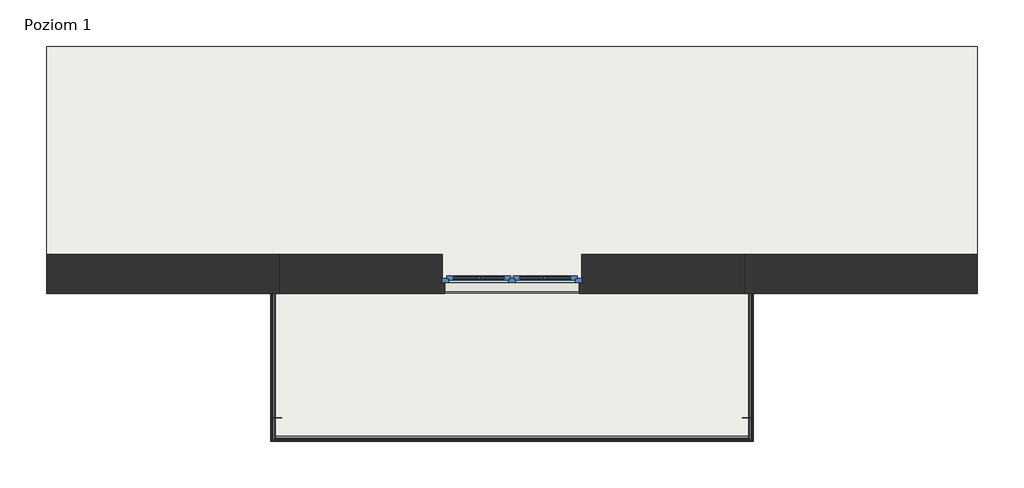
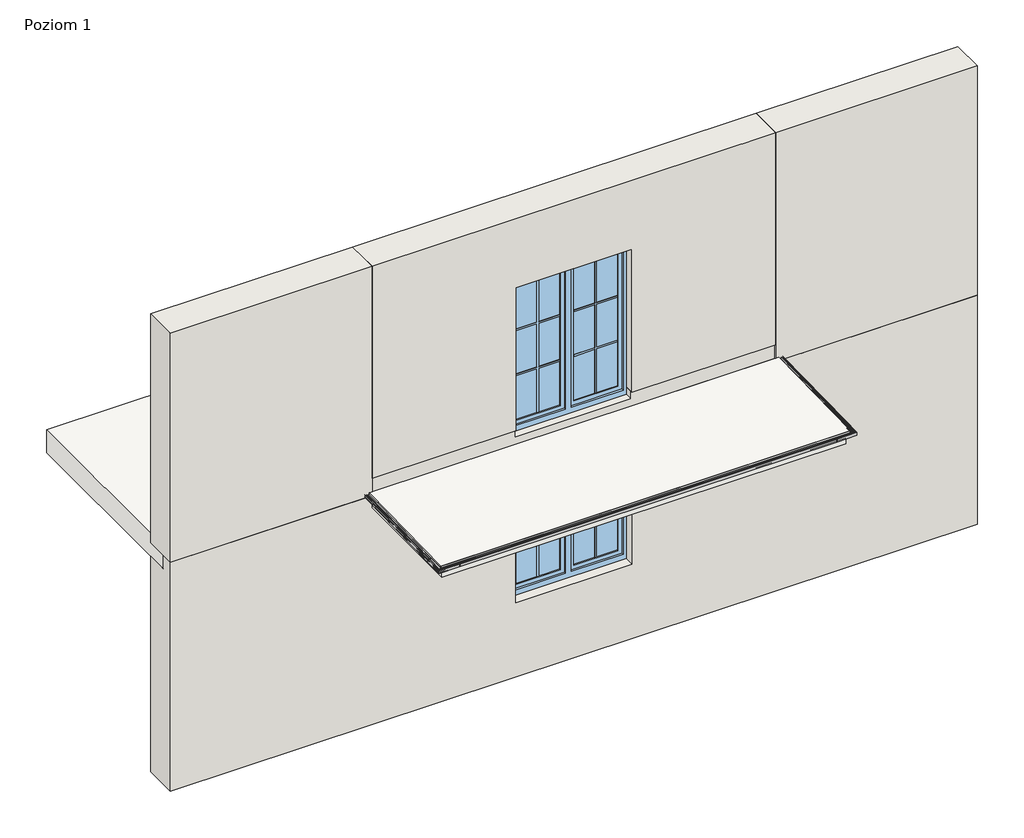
# One storey, part 1 of 4: 5 walls, 4 proxies, 3 slabs, 2 windows.
"""IFC4 building model written with IfcOpenShell, lengths in millimetres."""

from ifc_helpers import new_model, si_unit, frame, origin, place, context, project, spatial, polyline, outline, extrude, faceted_brep, transform, mapped, element, save
from components import w20_fb63c288, w20_69c16bf3, w20_ab5f31d4, w20z_20cc60ac, window_150x150_51b7f79a, window_150x200_12b14935

model = new_model("IFC4")

# Units and contexts
model_context = context("Model", 3, world=origin())
ifc_project = project(units=[si_unit("LENGTHUNIT", "METRE", prefix="MILLI")], contexts=[model_context])

# Site, building, storey
site = spatial("IfcSite", under=ifc_project)
building = spatial("IfcBuilding", under=site)
storey = spatial("IfcBuildingStorey", under=building, Name="Poziom 1", Elevation=0.0)

# Proxies
placement = place(None, origin())
w20_shape = w20_fb63c288(model_context)
element("IfcBuildingElementProxy", 1, Name="W20 Profil okapowy prosty : W20", ObjectType="W20 Profil okapowy prosty : W20", at=placement, inside=storey, context=model_context, shape_type="MappedRepresentation", body=[
    mapped(w20_shape, transform((-103829.8297699, 28196.8825447, -125.6962236), x_axis=(-1.0, 0.0, 0.0), y_axis=(0.0, -0.9997639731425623, -0.021725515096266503), z_axis=(0.0, -0.021725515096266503, 0.9997639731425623))),
])
w20_2_shape = w20_69c16bf3(model_context)
element("IfcBuildingElementProxy", 2, Name="W20 Profil okapowy prosty : W20", ObjectType="W20 Profil okapowy prosty : W20", at=placement, inside=storey, context=model_context, shape_type="MappedRepresentation", body=[
    mapped(w20_2_shape, transform((-103829.8297699, 28396.8353393, -121.3511206), x_axis=(0.0, 0.9997639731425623, 0.02172551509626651), y_axis=(-1.0, 0.0, 0.0), z_axis=(0.0, -0.021725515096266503, 0.9997639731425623))),
])
w20_3_shape = w20_ab5f31d4(model_context)
element("IfcBuildingElementProxy", 3, Name="W20 Profil okapowy prosty : W20", ObjectType="W20 Profil okapowy prosty : W20", at=placement, inside=storey, context=model_context, shape_type="MappedRepresentation", body=[
    mapped(w20_3_shape, transform((-108903.8297699, 28396.8353393, -121.3511206), x_axis=(0.0, 0.9997639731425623, 0.02172551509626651), y_axis=(-1.0, 0.0, 0.0), z_axis=(0.0, -0.021725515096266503, 0.9997639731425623))),
])
w20z_shape = w20z_20cc60ac(model_context)
element("IfcBuildingElementProxy", 4, Name="W20Z Profil okapowy prosty : W20z", ObjectType="W20Z Profil okapowy prosty : W20z", at=placement, inside=storey, context=model_context, shape_type="MappedRepresentation", body=[
    mapped(w20z_shape, transform((-108903.8267553, 28196.5028806, -125.7), x_axis=(1.0, 0.0, 0.0), y_axis=(0.0, 0.0, 1.0), z_axis=(0.0, -1.0, 0.0))),
])

# Slabs
element("IfcSlab", 5, ObjectType="Balkon - wykończenie - posadzka ceramiczna", at=placement, inside=storey, context=model_context, shape_type="SweptSolid", body=[
    extrude(outline(polyline([(28196.5349364, -125.7), (28196.5349364, -109.7), (29733.5349364, -76.3), (29733.5349364, -92.3), (28196.5349364, -125.7)])), frame((-108903.8297699, 0.0, 0.0), z_axis=(1.0, 0.0, 0.0), x_axis=(0.0, 1.0, 0.0)), (0.0, 0.0, 1.0), 5074.0),
])
element("IfcSlab", 6, ObjectType="Balkon - konstrukcja", at=placement, inside=storey, context=model_context, shape_type="Brep", body=[
    faceted_brep([(-108866.8297699, 28233.5349364, -285.0), (-108866.8297699, 29733.5349364, -285.0), (-108866.8297699, 29841.5349364, -285.0), (-103866.8297699, 29841.5349364, -285.0), (-103866.8297699, 29733.5349364, -285.0), (-103866.8297699, 28233.5349364, -285.0), (-108866.8297699, 28233.5349364, -125.0), (-108866.8297699, 29755.5349364, -94.0488806), (-108866.8297699, 29841.5349364, -92.3), (-108866.8297699, 29841.5349364, -125.0), (-103866.8297699, 29841.5349364, -92.3), (-103866.8297699, 29841.5349364, -125.0), (-103866.8297699, 28233.5349364, -125.0), (-103866.8297699, 29755.5349364, -94.0488806)], [[[0, 1, 2, 3, 4, 5]], [[2, 1, 0, 6, 7, 8, 9]], [[3, 2, 9, 8, 10, 11]], [[0, 5, 12, 6]], [[5, 4, 3, 11, 10, 13, 12]], [[12, 13, 10, 8, 7, 6]]]),
])
element("IfcSlab", 7, ObjectType="Strop", at=placement, inside=storey, context=model_context, shape_type="Brep", body=[
    faceted_brep([(-101366.8297699, 29888.5349364, -300.0), (-111366.8297699, 29888.5349364, -300.0), (-111366.8297699, 30153.5349364, -300.0), (-111366.8297699, 32388.5349364, -300.0), (-101366.8297699, 32388.5349364, -300.0), (-101366.8297699, 30153.5349364, -300.0), (-101366.8297699, 29888.5349364, 0.0), (-101366.8297699, 32388.5349364, 0.0), (-111366.8297699, 32388.5349364, 0.0), (-111366.8297699, 29888.5349364, 0.0), (-108866.8297699, 29888.5349364, 0.0), (-107116.8297699, 29888.5349364, 0.0), (-105616.8297699, 29888.5349364, 0.0), (-103866.8297699, 29888.5349364, 0.0), (-101366.8297699, 29888.5349364, -125.0), (-111366.8297699, 29888.5349364, -125.0)], [[[0, 1, 2, 3, 4, 5]], [[6, 7, 8, 9, 10, 11, 12, 13]], [[1, 0, 14, 6, 13, 12, 11, 10, 9, 15]], [[3, 2, 1, 15, 9, 8]], [[4, 3, 8, 7]], [[0, 5, 4, 7, 6, 14]]]),
])

# Walls
element("IfcWall", 8, ObjectType="Porotherm P+W 25 + o15 + t", at=placement, inside=storey, context=model_context, shape_type="Brep", body=[
    faceted_brep([(-111366.8297699, 29733.5349364, -3125.0), (-101366.8297699, 29733.5349364, -3125.0), (-101366.8297699, 29733.5349364, -125.0), (-103866.8297699, 29733.5349364, -125.0), (-103866.8297699, 29733.5349364, -285.0), (-108866.8297699, 29733.5349364, -285.0), (-108866.8297699, 29733.5349364, -125.0), (-111366.8297699, 29733.5349364, -125.0), (-105646.8297699, 29733.5349364, -680.0), (-105646.8297699, 29733.5349364, -2150.0), (-107086.8297699, 29733.5349364, -2150.0), (-107086.8297699, 29733.5349364, -680.0), (-101366.8297699, 30153.5349364, -3125.0), (-111366.8297699, 30153.5349364, -3125.0), (-111366.8297699, 30153.5349364, -300.0), (-101366.8297699, 30153.5349364, -300.0), (-105616.8297699, 30153.5349364, -2150.0), (-105616.8297699, 30153.5349364, -650.0), (-107116.8297699, 30153.5349364, -650.0), (-107116.8297699, 30153.5349364, -2150.0), (-101366.8297699, 29888.5349364, -300.0), (-101366.8297699, 29888.5349364, -125.0), (-103866.8297699, 29888.5349364, -125.0), (-108866.8297699, 29888.5349364, -125.0), (-111366.8297699, 29888.5349364, -125.0), (-108866.8297699, 29841.5349364, -125.0), (-103866.8297699, 29841.5349364, -125.0), (-111366.8297699, 29888.5349364, -300.0), (-105616.8297699, 29853.5349364, -650.0), (-105616.8297699, 29853.5349364, -2150.0), (-105646.8297699, 29853.5349364, -680.0), (-105646.8297699, 29853.5349364, -2150.0), (-103866.8297699, 29841.5349364, -285.0), (-108866.8297699, 29841.5349364, -285.0), (-107116.8297699, 29853.5349364, -650.0), (-107116.8297699, 29853.5349364, -2150.0), (-107086.8297699, 29853.5349364, -2150.0), (-107086.8297699, 29853.5349364, -680.0)], [[[0, 1, 2, 3, 4, 5, 6, 7], [8, 9, 10, 11]], [[12, 13, 14, 15], [16, 17, 18, 19]], [[1, 0, 13, 12]], [[2, 1, 12, 15, 20, 21]], [[2, 21, 22, 23, 24, 7, 6, 25, 26, 3]], [[0, 7, 24, 27, 14, 13]], [[28, 17, 16, 29]], [[8, 30, 31, 9]], [[27, 20, 15, 14]], [[20, 27, 24, 23, 22, 21]], [[32, 33, 5, 4]], [[5, 33, 25, 6]], [[33, 32, 26, 25]], [[32, 4, 3, 26]], [[17, 28, 34, 18]], [[29, 16, 19, 35, 36, 10, 9, 31]], [[34, 28, 29, 31, 30, 37, 36, 35]], [[34, 35, 19, 18]], [[30, 8, 11, 37]], [[10, 36, 37, 11]]]),
])
element("IfcWall", 9, ObjectType="Porotherm P+W 25 + o15 + t", at=placement, inside=storey, context=model_context, shape_type="Brep", body=[
    faceted_brep([(-111366.8297699, 29733.5349364, -125.0), (-108866.8297699, 29733.5349364, -125.0), (-108866.8297699, 29733.5349364, 100.0), (-108866.8297699, 29733.5349364, 2875.0), (-111366.8297699, 29733.5349364, 2875.0), (-111366.8297699, 30153.5349364, -125.0), (-111366.8297699, 30153.5349364, 2875.0), (-108866.8297699, 30153.5349364, 2875.0), (-108866.8297699, 30153.5349364, 100.0), (-108866.8297699, 30153.5349364, 0.0), (-108866.8297699, 30153.5349364, -125.0), (-111366.8297699, 29888.5349364, -125.0), (-108866.8297699, 29888.5349364, -125.0), (-108866.8297699, 29841.5349364, -125.0)], [[[0, 1, 2, 3, 4]], [[5, 6, 7, 8, 9, 10]], [[1, 0, 11, 5, 10, 12, 13]], [[4, 3, 7, 6]], [[0, 4, 6, 5, 11]], [[1, 13, 12, 10, 9, 8, 7, 3, 2]]]),
])
element("IfcWall", 10, ObjectType="Porotherm P+W 25 + o15 + t", at=placement, inside=storey, context=model_context, shape_type="Brep", body=[
    faceted_brep([(-103866.8297699, 29733.5349364, 2875.0), (-103866.8297699, 29733.5349364, 100.0), (-103866.8297699, 29733.5349364, -125.0), (-101366.8297699, 29733.5349364, -125.0), (-101366.8297699, 29733.5349364, 2875.0), (-103866.8297699, 30153.5349364, -125.0), (-103866.8297699, 30153.5349364, 0.0), (-103866.8297699, 30153.5349364, 100.0), (-103866.8297699, 30153.5349364, 2875.0), (-101366.8297699, 30153.5349364, 2875.0), (-101366.8297699, 30153.5349364, -125.0), (-103866.8297699, 29841.5349364, -125.0), (-103866.8297699, 29888.5349364, -125.0), (-101366.8297699, 29888.5349364, -125.0)], [[[0, 1, 2, 3, 4]], [[5, 6, 7, 8, 9, 10]], [[3, 2, 11, 12, 5, 10, 13]], [[4, 3, 13, 10, 9]], [[0, 4, 9, 8]], [[0, 8, 7, 6, 5, 12, 11, 2, 1]]]),
])
element("IfcWall", 11, ObjectType="Porotherm P+W 25 + o12 + pł ceramiczne", at=placement, inside=storey, context=model_context, shape_type="Brep", body=[
    faceted_brep([(-103866.8297699, 29755.5349364, 100.0), (-105646.8297699, 29755.5349364, 100.0), (-105646.8297699, 29755.5349364, 0.0), (-107086.8297699, 29755.5349364, 0.0), (-107086.8297699, 29755.5349364, 100.0), (-108866.8297699, 29755.5349364, 100.0), (-108866.8297699, 29755.5349364, -94.0488806), (-103866.8297699, 29755.5349364, -94.0488806), (-108866.8297699, 30153.5349364, 0.0), (-108866.8297699, 30153.5349364, 100.0), (-107116.8297699, 30153.5349364, 100.0), (-107116.8297699, 30153.5349364, 0.0), (-103866.8297699, 30153.5349364, 100.0), (-103866.8297699, 30153.5349364, 0.0), (-105616.8297699, 30153.5349364, 0.0), (-105616.8297699, 30153.5349364, 100.0), (-108866.8297699, 29888.5349364, -125.0), (-103866.8297699, 29888.5349364, -125.0), (-103866.8297699, 29841.5349364, -125.0), (-108866.8297699, 29841.5349364, -125.0), (-103866.8297699, 29841.5349364, -92.3), (-103866.8297699, 29888.5349364, 0.0), (-105616.8297699, 29853.5349364, 100.0), (-105646.8297699, 29853.5349364, 100.0), (-107086.8297699, 29853.5349364, 100.0), (-107116.8297699, 29853.5349364, 100.0), (-108866.8297699, 29888.5349364, 0.0), (-108866.8297699, 29841.5349364, -92.3), (-107116.8297699, 29888.5349364, 0.0), (-105616.8297699, 29888.5349364, 0.0), (-107116.8297699, 29853.5349364, 0.0), (-107086.8297699, 29853.5349364, 0.0), (-105646.8297699, 29853.5349364, 0.0), (-105616.8297699, 29853.5349364, 0.0)], [[[0, 1, 2, 3, 4, 5, 6, 7]], [[8, 9, 10, 11]], [[12, 13, 14, 15]], [[16, 17, 18, 19]], [[12, 0, 7, 20, 18, 17, 21, 13]], [[0, 12, 15, 22, 23, 1]], [[9, 5, 4, 24, 25, 10]], [[5, 9, 8, 26, 16, 19, 27, 6]], [[8, 11, 28, 26]], [[13, 21, 29, 14]], [[17, 16, 26, 28, 29, 21]], [[20, 27, 19, 18]], [[27, 20, 7, 6]], [[30, 31, 3, 2, 32, 33, 29, 28]], [[31, 30, 25, 24]], [[33, 32, 23, 22]], [[33, 22, 15, 14, 29]], [[25, 30, 28, 11, 10]], [[32, 2, 1, 23]], [[3, 31, 24, 4]]]),
])
element("IfcWall", 12, ObjectType="Porotherm P+W 25 + o15 + t", at=placement, inside=storey, context=model_context, shape_type="Brep", body=[
    faceted_brep([(-103866.8297699, 29733.5349364, 100.0), (-103866.8297699, 29733.5349364, 2875.0), (-108866.8297699, 29733.5349364, 2875.0), (-108866.8297699, 29733.5349364, 100.0), (-107086.8297699, 29733.5349364, 100.0), (-107086.8297699, 29733.5349364, 1970.0), (-105646.8297699, 29733.5349364, 1970.0), (-105646.8297699, 29733.5349364, 100.0), (-103866.8297699, 30153.5349364, 2875.0), (-103866.8297699, 30153.5349364, 100.0), (-105616.8297699, 30153.5349364, 100.0), (-105616.8297699, 30153.5349364, 2000.0), (-107116.8297699, 30153.5349364, 2000.0), (-107116.8297699, 30153.5349364, 100.0), (-108866.8297699, 30153.5349364, 100.0), (-108866.8297699, 30153.5349364, 2875.0), (-108866.8297699, 29755.5349364, 100.0), (-107116.8297699, 29853.5349364, 100.0), (-107086.8297699, 29853.5349364, 100.0), (-107086.8297699, 29755.5349364, 100.0), (-103866.8297699, 29755.5349364, 100.0), (-105646.8297699, 29755.5349364, 100.0), (-105646.8297699, 29853.5349364, 100.0), (-105616.8297699, 29853.5349364, 100.0), (-105616.8297699, 29853.5349364, 2000.0), (-105646.8297699, 29853.5349364, 1970.0), (-107116.8297699, 29853.5349364, 2000.0), (-107086.8297699, 29853.5349364, 1970.0)], [[[0, 1, 2, 3, 4, 5, 6, 7]], [[8, 9, 10, 11, 12, 13, 14, 15]], [[3, 16, 14, 13, 17, 18, 19, 4]], [[9, 20, 0, 7, 21, 22, 23, 10]], [[1, 0, 20, 9, 8]], [[2, 1, 8, 15]], [[3, 2, 15, 14, 16]], [[24, 11, 10, 23]], [[6, 25, 22, 21, 7]], [[26, 12, 11, 24]], [[26, 24, 23, 22, 25, 27, 18, 17]], [[12, 26, 17, 13]], [[27, 25, 6, 5]], [[27, 5, 4, 19, 18]]]),
])

# Windows
window_150x150_shape = window_150x150_51b7f79a(model_context)
element("IfcWindow", 13, ObjectType="OKNO_2X_W_SZ : 150x150", at=placement, inside=storey, context=model_context, shape_type="MappedRepresentation", body=[
    mapped(window_150x150_shape, transform((-106366.8297699, 29943.5349364, -3000.0), x_axis=(-1.0, 0.0, 0.0), y_axis=(0.0, -1.0, 0.0), z_axis=(0.0, 0.0, 1.0))),
])
window_150x200_shape = window_150x200_12b14935(model_context)
element("IfcWindow", 14, ObjectType="OKNO_2X_W_SZ : 150x200", at=placement, inside=storey, context=model_context, shape_type="MappedRepresentation", body=[
    mapped(window_150x200_shape, transform((-106366.8297699, 29943.5349364, -850.0), x_axis=(-1.0, 0.0, 0.0), y_axis=(0.0, -1.0, 0.0), z_axis=(0.0, 0.0, 1.0))),
])

save(model, "model.ifc")
